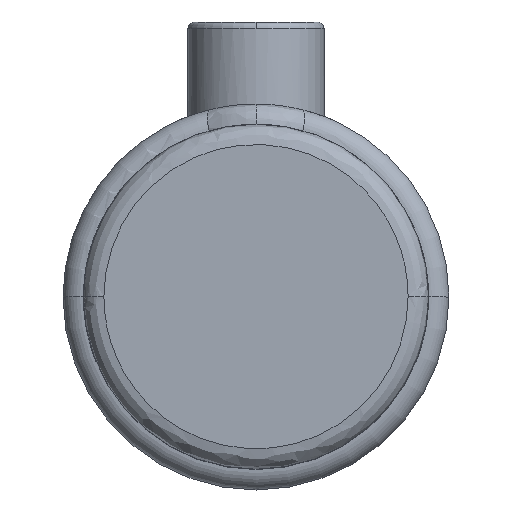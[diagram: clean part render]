
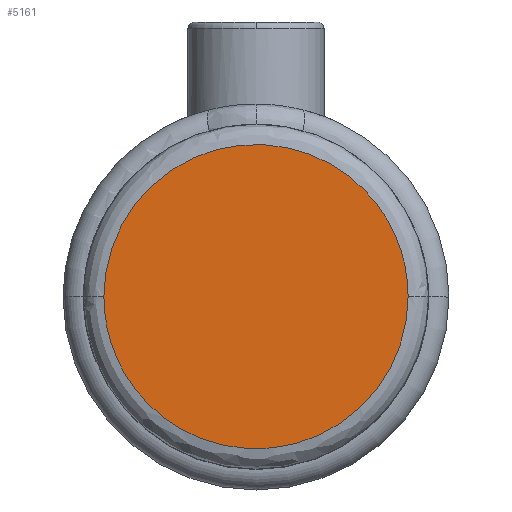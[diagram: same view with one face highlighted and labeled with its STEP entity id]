
A CAD part, top view. The second image highlights one B-rep face of the part: STEP entity #5161.
In plain terms, the highlighted planar face has unit normal (0, 0, 1).
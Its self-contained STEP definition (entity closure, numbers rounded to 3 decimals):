
#297 = CARTESIAN_POINT ( 'NONE',  ( 22.35, 44.7, 38. ) ) ;
#460 = CARTESIAN_POINT ( 'NONE',  ( -22.35, -44.7, 38. ) ) ;
#983 = ORIENTED_EDGE ( 'NONE', *, *, #4413, .F. ) ;
#2225 = CARTESIAN_POINT ( 'NONE',  ( 0., 12.675, 38. ) ) ;
#2783 = PLANE ( 'NONE',  #4259 ) ;
#2866 = DIRECTION ( 'NONE',  ( 0., -1., 0. ) ) ;
#2966 = CARTESIAN_POINT ( 'NONE',  ( 22.35, -44.7, 38. ) ) ;
#3229 = VERTEX_POINT ( 'NONE', #6711 ) ;
#3380 = ORIENTED_EDGE ( 'NONE', *, *, #5400, .F. ) ;
#3441 = CARTESIAN_POINT ( 'NONE',  ( -22.35, 0., 38. ) ) ;
#4094 = CARTESIAN_POINT ( 'NONE',  ( -22.35, 44.7, 38. ) ) ;
#4259 = AXIS2_PLACEMENT_3D ( 'NONE', #2225, #6663, #2866 ) ;
#4387 =( BOUNDED_CURVE ( )  B_SPLINE_CURVE ( 3, ( #7401, #2966, #460, #4890 ),
 .UNSPECIFIED., .F., .F. ) 
 B_SPLINE_CURVE_WITH_KNOTS ( ( 4, 4 ),
 ( 0.25, 0.75 ),
 .UNSPECIFIED. ) 
 CURVE ( )  GEOMETRIC_REPRESENTATION_ITEM ( )  RATIONAL_B_SPLINE_CURVE ( ( 1., 0.333, 0.333, 1. ) ) 
 REPRESENTATION_ITEM ( '' )  );
#4413 = EDGE_CURVE ( 'NONE', #4629, #3229, #6308, .T. ) ;
#4629 = VERTEX_POINT ( 'NONE', #7196 ) ;
#4729 = CARTESIAN_POINT ( 'NONE',  ( 22.35, 0., 38. ) ) ;
#4856 = FACE_OUTER_BOUND ( 'NONE', #6142, .T. ) ;
#4890 = CARTESIAN_POINT ( 'NONE',  ( -22.35, 0., 38. ) ) ;
#5161 = ADVANCED_FACE ( 'NONE', ( #4856 ), #2783, .T. ) ;
#5400 = EDGE_CURVE ( 'NONE', #3229, #4629, #4387, .T. ) ;
#6142 = EDGE_LOOP ( 'NONE', ( #3380, #983 ) ) ;
#6308 =( BOUNDED_CURVE ( )  B_SPLINE_CURVE ( 3, ( #3441, #4094, #297, #4729 ),
 .UNSPECIFIED., .F., .T. ) 
 B_SPLINE_CURVE_WITH_KNOTS ( ( 4, 4 ),
 ( 0.75, 1.25 ),
 .UNSPECIFIED. ) 
 CURVE ( )  GEOMETRIC_REPRESENTATION_ITEM ( )  RATIONAL_B_SPLINE_CURVE ( ( 1., 0.333, 0.333, 1. ) ) 
 REPRESENTATION_ITEM ( '' )  );
#6663 = DIRECTION ( 'NONE',  ( 0., 0., 1. ) ) ;
#6711 = CARTESIAN_POINT ( 'NONE',  ( 22.35, 0., 38. ) ) ;
#7196 = CARTESIAN_POINT ( 'NONE',  ( -22.35, 0., 38. ) ) ;
#7401 = CARTESIAN_POINT ( 'NONE',  ( 22.35, 0., 38. ) ) ;
